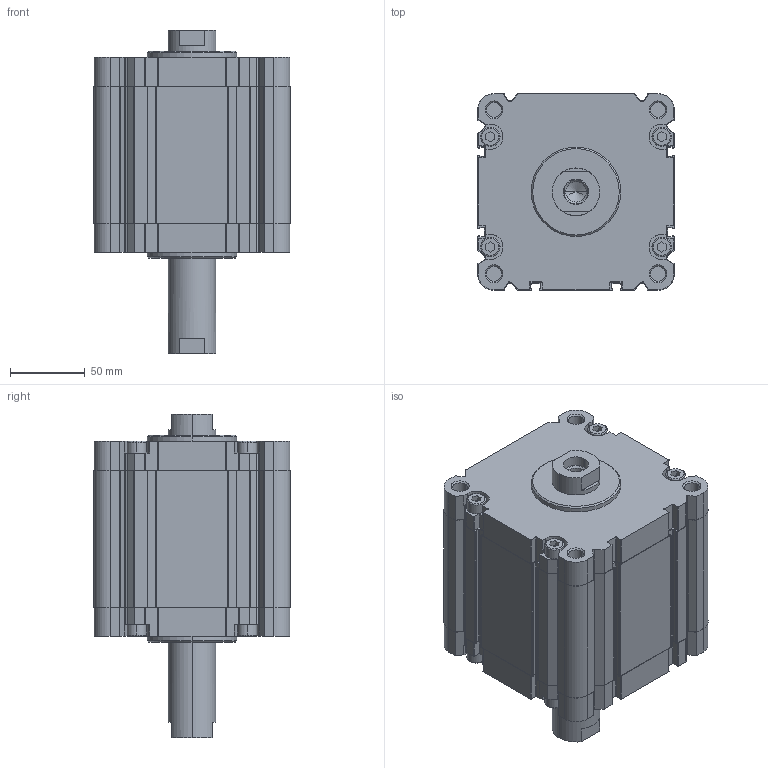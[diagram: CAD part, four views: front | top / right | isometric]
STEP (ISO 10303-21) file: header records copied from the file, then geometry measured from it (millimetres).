
FILE_DESCRIPTION (( 'STEP AP203' ), '1' );
FILE_NAME ('CDVU125-50F-P.STEP', '2020-07-24T18:44:43', ( '' ), ( '' ), 'SwSTEP 2.0', 'SolidWorks 2019', '' );
FILE_SCHEMA (( 'CONFIG_CONTROL_DESIGN' ));
Length unit declared in the file: millimetre
Products named in the file (1): CDVU125-50F-P
Bounding box: 132 x 132 x 217 mm (x, y, z)
Volume: 1684780.2 mm3; surface area: 227776 mm2
Topology: 2 solids, 2 shells, 666 faces, 1816 edges, 1184 vertices
Faces by surface type: plane 322, cylinder 276, cone 52, torus 16
Entity records: 21155 total; most frequent: DIRECTION 3778, CARTESIAN_POINT 3659, ORIENTED_EDGE 3616, EDGE_CURVE 1808, AXIS2_PLACEMENT_3D 1303, VERTEX_POINT 1184, LINE 1172, VECTOR 1172
